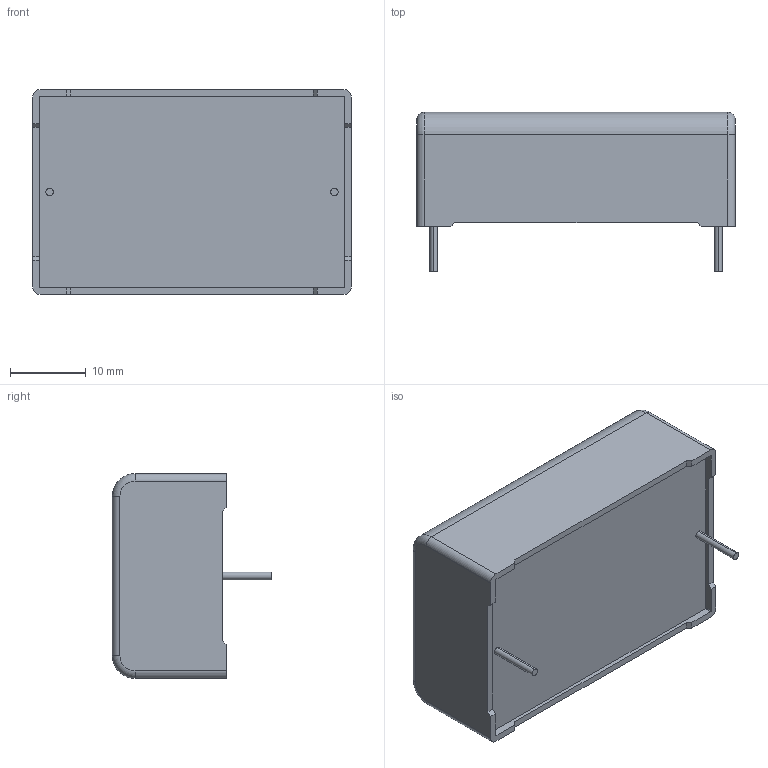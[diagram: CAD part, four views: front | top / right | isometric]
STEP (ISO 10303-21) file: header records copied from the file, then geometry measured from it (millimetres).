
FILE_DESCRIPTION (( 'STEP AP203' ), '1' );
FILE_NAME ('DC_Link_27x15x42_2pins.step', '2017-04-03T15:59:59', ( 'work' ), ( 'Hewlett-Packard Company' ), 'SwSTEP 2.0', 'SolidWorks 2017', '' );
FILE_SCHEMA (( 'CONFIG_CONTROL_DESIGN' ));
Length unit declared in the file: millimetre
Products named in the file (1): DC_Link_27x15x42_2pins
Bounding box: 42 x 21 x 27 mm (x, y, z)
Volume: 15777.6 mm3; surface area: 4250.3 mm2
Topology: 1 solids, 1 shells, 116 faces, 307 edges, 202 vertices
Faces by surface type: plane 80, cylinder 16, bspline 16, torus 4
Entity records: 4332 total; most frequent: CARTESIAN_POINT 1450, ORIENTED_EDGE 614, DIRECTION 513, EDGE_CURVE 307, VECTOR 239, LINE 239, VERTEX_POINT 202, AXIS2_PLACEMENT_3D 137
